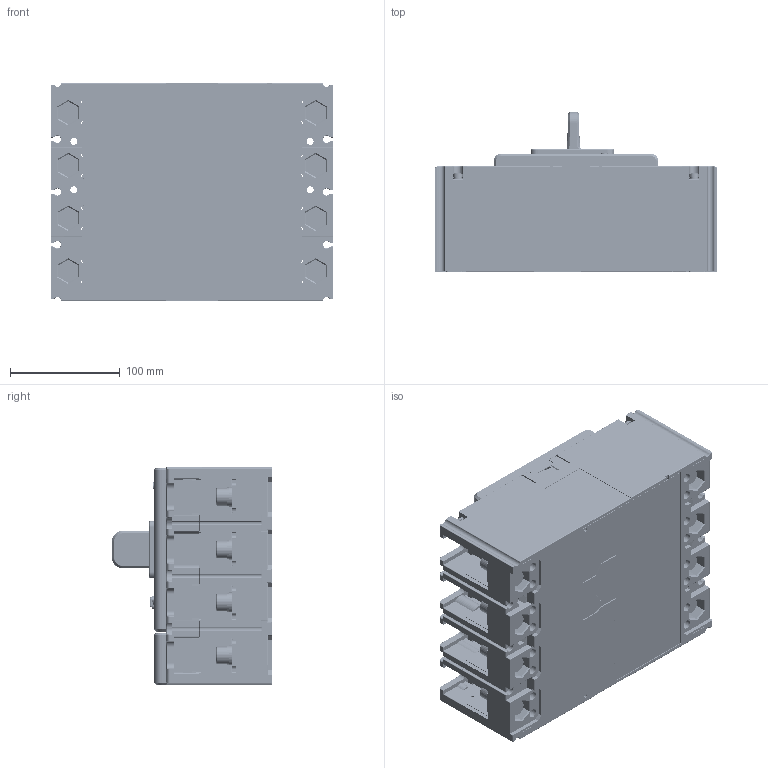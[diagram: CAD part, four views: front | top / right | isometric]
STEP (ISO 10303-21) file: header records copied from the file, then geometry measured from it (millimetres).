
FILE_DESCRIPTION((''),'2;1');
FILE_NAME('2258013700_ASM','2017-12-20T',('yan.shen'),(''),'PRO/ENGINEER BY PARAMETRIC TECHNOLOGY CORPORATION, 2015440','PRO/ENGINEER BY PARAMETRIC TECHNOLOGY CORPORATION, 2015440','');
FILE_SCHEMA(('CONFIG_CONTROL_DESIGN'));
Products named in the file (56): JZ-5DLX_024_272; GB_T809-M5X16; 5024027200_ASM; 8551033800; 8955003200; 5551071100_ASM; 8585066900; 5420039700_ASM; 5420039900_ASM; 5420040500_ASM; 8420028700; 5420040000_ASM; 5420040600_ASM; 8585067000; 5420039800_ASM; 5420040100_ASM; 5420040700_ASM; 8585067100; 5510015200_ASM; JYB-6020-0_05X15; JYB909; 5510015500_ASM; 6176013700_ASM; 6760011800_ASM; GZ_5DLX_315_447; GB_T809-M3X8; 5315044700_ASM; 8253201300; 8282201200_AF1; 5315045100_ASM; 8253057400; 8865077500_AF0; 8865077600_AF0; 5253021200_ASM; 8742104000; 8253063000; 6716014900_ASM; 8742103700; 8742105100; GB_T70_1-M10X25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
Assembly tree (99 placements, depth 7):
  2258013700_ASM
    6760011800_ASM
      5024027200_ASM
        JZ-5DLX_024_272
        GB_T809-M5X16  x10
      5551071100_ASM  x4
        8551033800
        8955003200
      6176013700_ASM
        5420040500_ASM
          5420039900_ASM
            5420039700_ASM
              8585066900
        5420040600_ASM
          5420040000_ASM
            8420028700
        5420040700_ASM
          5420040100_ASM
            5420039800_ASM
              8585067000
        5510015500_ASM
          5510015200_ASM
            8585067100
          JYB-6020-0_05X15
          JYB909
    5315045100_ASM
      5315044700_ASM
        GZ_5DLX_315_447
        GB_T809-M3X8  x6
      8253201300
      8282201200_AF1
    5253021200_ASM
      8253057400
      8865077500_AF0
      8865077600_AF0
    8742104000
    6716014900_ASM
      8253063000
    8742103700  x4
    8742105100  x4
    5850002600_ASM  x8
      GB_T70_1-M10X25
      GB_T9074_26-10
      GB_T97_4_10
    5850007400_ASM  x10
      GB_T823-M5X35
      7090300501K_GB_T93_5
      GB_T97_4_5
    8315063600
    8315058200
    5850007700_ASM  x6
      7010100305R01_GB_T823_M3X10
      7090300201_GB_T93_3
      GB_T97_4_3
    8253063200
    8300048900
Bounding box: 257 x 145.9 x 198 mm (x, y, z)
Volume: 1849454.8 mm3; surface area: 834885.4 mm2
Topology: 121 solids, 181 shells, 7121 faces, 18113 edges, 11496 vertices
Faces by surface type: plane 3890, cylinder 2260, cone 279, torus 258, extrusion 186, sphere 131, bspline 117
Entity records: 190428 total; most frequent: CARTESIAN_POINT 51922, ORIENTED_EDGE 28892, DIRECTION 28129, EDGE_CURVE 14484, VECTOR 10175, LINE 9989, VERTEX_POINT 9247, AXIS2_PLACEMENT_3D 8977
